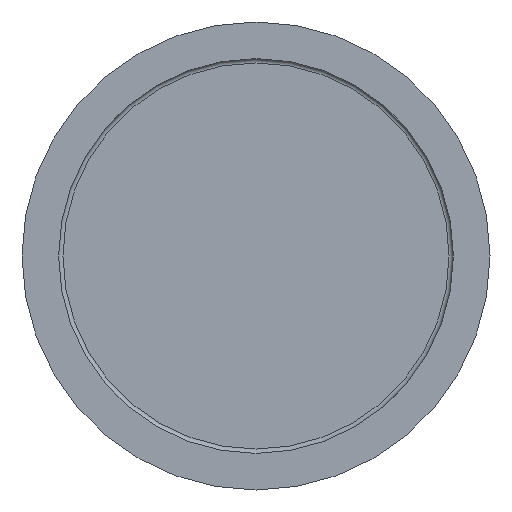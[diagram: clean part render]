
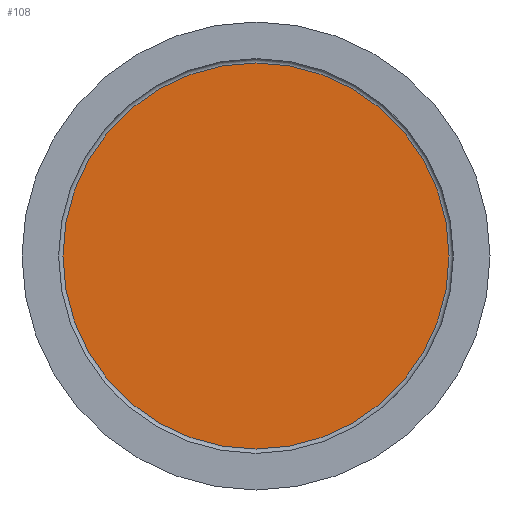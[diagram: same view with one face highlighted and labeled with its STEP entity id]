
A CAD part, left-side view. The second image highlights one B-rep face of the part: STEP entity #108.
In plain terms, the highlighted planar face has unit normal (-1, 0, 0).
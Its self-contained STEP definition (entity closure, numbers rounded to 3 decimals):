
#15=PLANE($,#125);
#31=FACE_OUTER_BOUND($,#44,.T.);
#44=EDGE_LOOP($,(#84));
#56=CIRCLE($,#126,16.5);
#64=VERTEX_POINT($,#185);
#72=EDGE_CURVE($,#64,#64,#56,.T.);
#84=ORIENTED_EDGE($,*,*,#72,.F.);
#108=ADVANCED_FACE($,(#31),#15,.T.);
#125=AXIS2_PLACEMENT_3D($,#184,#154,#155);
#126=AXIS2_PLACEMENT_3D($,#186,#156,#157);
#154=DIRECTION('center_axis',(-1.,0.,0.));
#155=DIRECTION('ref_axis',(0.,0.,1.));
#156=DIRECTION('center_axis',(1.,0.,0.));
#157=DIRECTION('ref_axis',(0.,0.,-1.));
#184=CARTESIAN_POINT('Origin',(4.87,16.5,0.));
#185=CARTESIAN_POINT('',(4.87,16.5,0.));
#186=CARTESIAN_POINT('Origin',(4.87,0.,0.));
